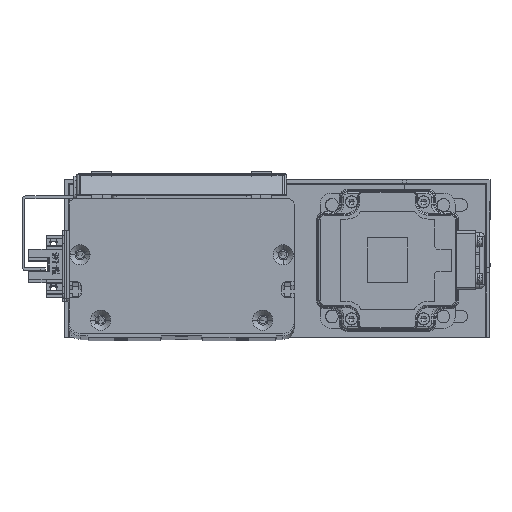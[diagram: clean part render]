
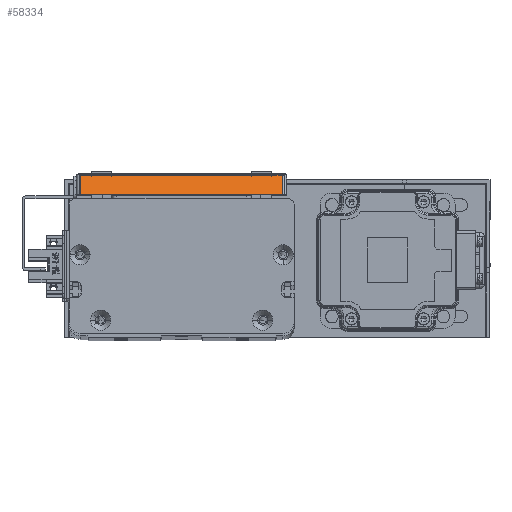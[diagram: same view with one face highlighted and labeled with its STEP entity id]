
A CAD part, top view. The second image highlights one B-rep face of the part: STEP entity #58334.
In plain terms, the highlighted planar face has unit normal (0, 0.707, 0.707) as drawn and (-0.707, 0, -0.707) by its records, which use the part's own axes.
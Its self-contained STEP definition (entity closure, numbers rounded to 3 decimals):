
#1600 = FACE_OUTER_BOUND ( 'NONE', #37213, .T. ) ;
#4511 = DIRECTION ( 'NONE',  ( -0.707, 0., 0.707 ) ) ;
#4692 = ORIENTED_EDGE ( 'NONE', *, *, #17384, .T. ) ;
#6074 = CARTESIAN_POINT ( 'NONE',  ( -68., 91.7, 5.6 ) ) ;
#6301 = VERTEX_POINT ( 'NONE', #17093 ) ;
#7998 = CARTESIAN_POINT ( 'NONE',  ( -66.5, 93.4, 4.1 ) ) ;
#8433 = ORIENTED_EDGE ( 'NONE', *, *, #34195, .T. ) ;
#9349 = PLANE ( 'NONE',  #36316 ) ;
#10039 = DIRECTION ( 'NONE',  ( -0.707, 0., -0.707 ) ) ;
#11708 = CARTESIAN_POINT ( 'NONE',  ( -57.298, 93.4, -5.102 ) ) ;
#17093 = CARTESIAN_POINT ( 'NONE',  ( -57.298, 1.7, -5.102 ) ) ;
#17384 = EDGE_CURVE ( 'NONE', #64740, #33169, #47117, .T. ) ;
#17805 = ORIENTED_EDGE ( 'NONE', *, *, #45809, .T. ) ;
#18079 = DIRECTION ( 'NONE',  ( 0., -1., 0. ) ) ;
#21827 = LINE ( 'NONE', #6074, #48950 ) ;
#21941 = CARTESIAN_POINT ( 'NONE',  ( -66.5, 1.7, 4.1 ) ) ;
#25528 = EDGE_CURVE ( 'NONE', #55933, #6301, #52132, .T. ) ;
#25706 = CARTESIAN_POINT ( 'NONE',  ( -57.298, 91.7, -5.102 ) ) ;
#27773 = ORIENTED_EDGE ( 'NONE', *, *, #25528, .T. ) ;
#31687 = DIRECTION ( 'NONE',  ( -0.707, 0., 0.707 ) ) ;
#33169 = VERTEX_POINT ( 'NONE', #60736 ) ;
#34195 = EDGE_CURVE ( 'NONE', #6301, #64740, #51614, .T. ) ;
#36316 = AXIS2_PLACEMENT_3D ( 'NONE', #68801, #10039, #4511 ) ;
#37213 = EDGE_LOOP ( 'NONE', ( #8433, #4692, #17805, #27773 ) ) ;
#45809 = EDGE_CURVE ( 'NONE', #33169, #55933, #21827, .T. ) ;
#47117 = LINE ( 'NONE', #7998, #58129 ) ;
#48751 = DIRECTION ( 'NONE',  ( 0.707, 0., -0.707 ) ) ;
#48950 = VECTOR ( 'NONE', #48751, 1000. ) ;
#51134 = DIRECTION ( 'NONE',  ( 0., 1., 0. ) ) ;
#51614 = LINE ( 'NONE', #64598, #55696 ) ;
#52132 = LINE ( 'NONE', #11708, #64850 ) ;
#55696 = VECTOR ( 'NONE', #31687, 1000. ) ;
#55933 = VERTEX_POINT ( 'NONE', #25706 ) ;
#58129 = VECTOR ( 'NONE', #51134, 1000. ) ;
#58334 = ADVANCED_FACE ( 'NONE', ( #1600 ), #9349, .T. ) ;
#60736 = CARTESIAN_POINT ( 'NONE',  ( -66.5, 91.7, 4.1 ) ) ;
#64598 = CARTESIAN_POINT ( 'NONE',  ( -68., 1.7, 5.6 ) ) ;
#64740 = VERTEX_POINT ( 'NONE', #21941 ) ;
#64850 = VECTOR ( 'NONE', #18079, 1000. ) ;
#68801 = CARTESIAN_POINT ( 'NONE',  ( -68., 93.4, 5.6 ) ) ;
